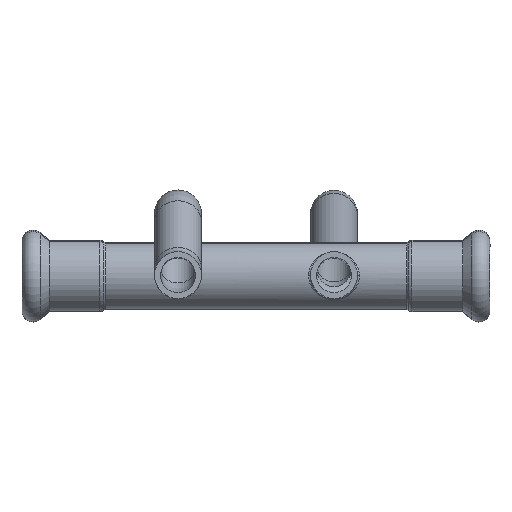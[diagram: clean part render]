
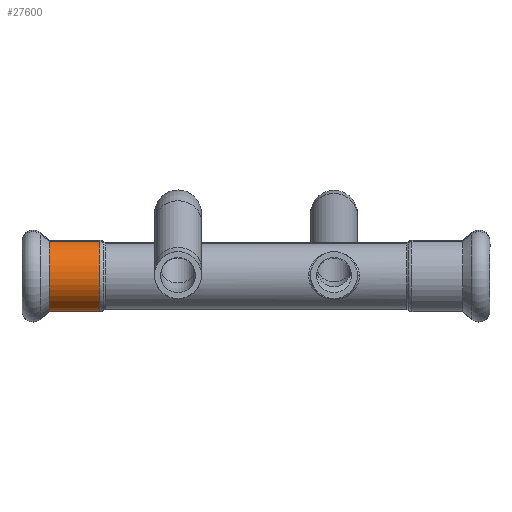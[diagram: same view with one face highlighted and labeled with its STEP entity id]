
A CAD part, top view. The second image highlights one B-rep face of the part: STEP entity #27600.
In plain terms, the highlighted cylindrical face has radius 9.125 mm (diameter 18.25 mm), a partial arc.
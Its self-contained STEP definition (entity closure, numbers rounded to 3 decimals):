
#27060=CARTESIAN_POINT('',(1.199,-4.398,0.));
#27070=VERTEX_POINT('',#27060);
#27150=CARTESIAN_POINT('',(1.199,-22.648,
0.));
#27160=VERTEX_POINT('',#27150);
#27190=CARTESIAN_POINT('',(1.199,-13.523,0.));
#27200=DIRECTION('',(1.,0.,0.));
#27210=DIRECTION('',(0.,1.,0.));
#27220=AXIS2_PLACEMENT_3D('',#27190,#27200,#27210);
#27230=CIRCLE('',#27220,9.125);
#27240=EDGE_CURVE('',#27160,#27070,#27230,.T.);
#27290=CARTESIAN_POINT('',(7.691,-13.523,0.));
#27300=DIRECTION('',(-1.,-0.,-0.));
#27310=DIRECTION('',(0.,1.,0.));
#27320=AXIS2_PLACEMENT_3D('',#27290,#27300,#27310);
#27330=CYLINDRICAL_SURFACE('',#27320,9.125);
#27340=CARTESIAN_POINT('',(7.691,-4.398,0.));
#27350=DIRECTION('',(-1.,-0.,-0.));
#27360=VECTOR('',#27350,1.);
#27370=LINE('',#27340,#27360);
#27380=CARTESIAN_POINT('',(14.183,-4.398,0.));
#27390=VERTEX_POINT('',#27380);
#27400=EDGE_CURVE('',#27390,#27070,#27370,.T.);
#27410=ORIENTED_EDGE('',*,*,#27400,.F.);
#27420=ORIENTED_EDGE('',*,*,#27240,.T.);
#27430=CARTESIAN_POINT('',(7.691,-22.648,
0.));
#27440=DIRECTION('',(-1.,-0.,-0.));
#27450=VECTOR('',#27440,1.);
#27460=LINE('',#27430,#27450);
#27470=CARTESIAN_POINT('',(14.183,-22.648,0.));
#27480=VERTEX_POINT('',#27470);
#27490=EDGE_CURVE('',#27480,#27160,#27460,.T.);
#27500=ORIENTED_EDGE('',*,*,#27490,.T.);
#27510=CARTESIAN_POINT('',(14.183,-13.523,0.));
#27520=DIRECTION('',(1.,0.,0.));
#27530=DIRECTION('',(0.,1.,0.));
#27540=AXIS2_PLACEMENT_3D('',#27510,#27520,#27530);
#27550=CIRCLE('',#27540,9.125);
#27560=EDGE_CURVE('',#27480,#27390,#27550,.T.);
#27570=ORIENTED_EDGE('',*,*,#27560,.F.);
#27580=EDGE_LOOP('',(#27570,#27500,#27420,#27410));
#27590=FACE_OUTER_BOUND('',#27580,.T.);
#27600=ADVANCED_FACE('',(#27590),#27330,.T.);
